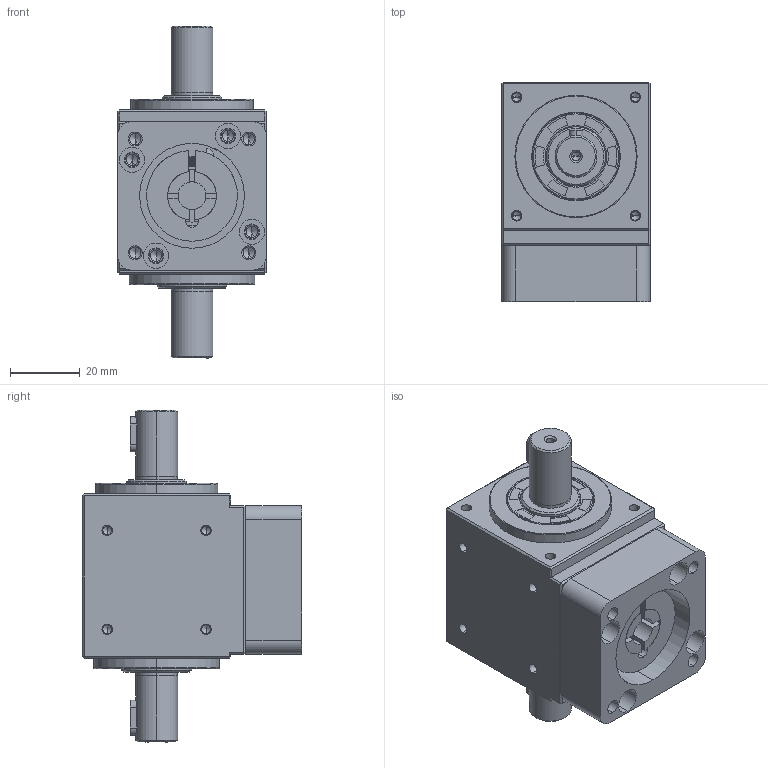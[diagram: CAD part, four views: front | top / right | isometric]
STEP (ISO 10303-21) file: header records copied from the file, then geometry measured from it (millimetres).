
FILE_DESCRIPTION (( 'STEP AP214' ), '1' );
FILE_NAME ('RD42-2(8-30-46-M4).STEP', '2018-12-05T04:20:42', ( '' ), ( '' ), 'SwSTEP 2.0', 'SolidWorks 2016', '' );
FILE_SCHEMA (( 'AUTOMOTIVE_DESIGN' ));
Length unit declared in the file: millimetre
Products named in the file (8): R42; SN42-26x14x11-M4; R42-2-(8); R42-20x32x5; R42-17x25x4; RD42-2(8-30-46-M4); R42-2(30-46-M4); RD42-(12x20-4x10)
Assembly tree (7 placements, depth 2):
  RD42-2(8-30-46-M4)
    R42
    R42-2(30-46-M4)
    RD42-(12x20-4x10)
    R42-20x32x5
    R42-17x25x4
    SN42-26x14x11-M4
    R42-2-(8)
Bounding box: 42.5 x 62.75 x 95 mm (x, y, z)
Volume: 92042.9 mm3; surface area: 42712.4 mm2
Topology: 8 solids, 8 shells, 649 faces, 1528 edges, 901 vertices
Faces by surface type: cylinder 309, plane 146, cone 136, torus 36, bspline 22
Entity records: 30918 total; most frequent: CARTESIAN_POINT 15691, DIRECTION 3045, ORIENTED_EDGE 2936, EDGE_CURVE 1468, AXIS2_PLACEMENT_3D 1188, VERTEX_POINT 901, EDGE_LOOP 741, VECTOR 669
